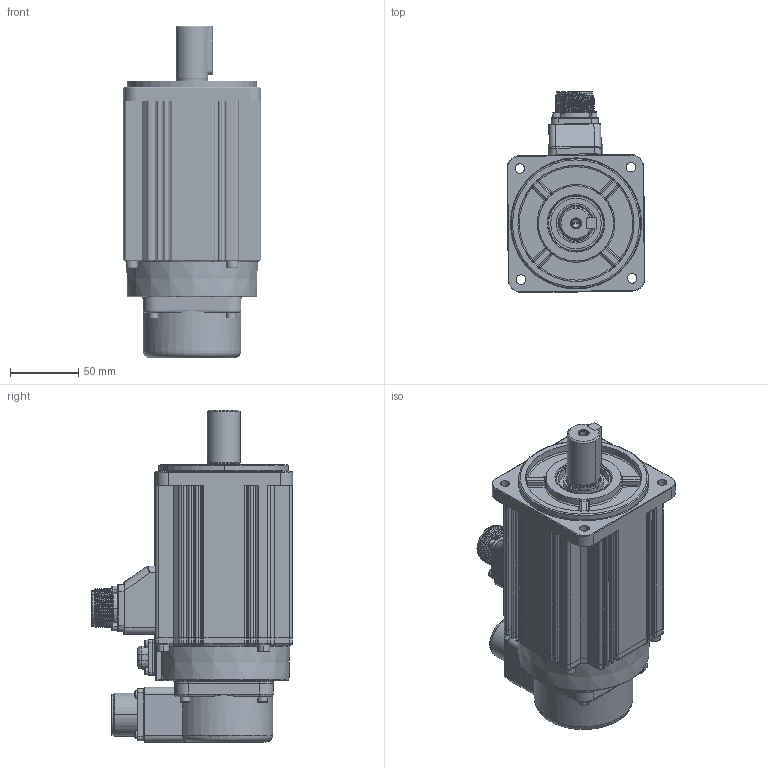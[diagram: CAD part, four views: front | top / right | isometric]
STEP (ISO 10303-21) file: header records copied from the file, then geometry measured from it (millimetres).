
FILE_DESCRIPTION((''),'2;1');
FILE_NAME('IMS20B-10M20C30C-00_ASM','2025-05-20T12:30:47',('admin'),(''),'CREO PARAMETRIC BY PTC INC, 2019080','CREO PARAMETRIC BY PTC INC, 2019080','');
FILE_SCHEMA(('CONFIG_CONTROL_DESIGN'));
Products named in the file (22): 100_JIKE_20C_L64_2_1; 50051-00115_1_1; 18-A6-18FLANGE-CUSTOM-3D_1_1; ISO4762-M3X30-8_8_1_1; 100_DZZJ_20C_ASM_2_ASM_1_ASM; 100_20C_ZHOU_BZ_1_1; 100_HDG_BZ_1_1; 100_ZZZJ_20C_BZ_ASM_1_ASM_1_ASM; 100_FHZ_1_1; CMS3102A20-29PE9-A-3D_1_1; ISO7045-M3X16-4_8_1_1; ISO4762-M4X16-8_8_1_1; 100_FHZ_ASM_1_ASM_1_ASM; BAOZHA_MIFENGDIAN_1_1; BAOZHA_CHUXIANHE_1_1; M3X8-0001_1_1; ISO4762-M5X16-8_8_1_1; 13000_1_1; IMS20B-10M20C30C-BZ_ASM_2_ASM_1_ASM; IMS20B-10M20C30C-00_ASM_1_ASM; C; IMS20B-10M20C30C-00_ASM
Assembly tree (36 placements, depth 5):
  IMS20B-10M20C30C-00_ASM
    IMS20B-10M20C30C-00_ASM_1_ASM
      IMS20B-10M20C30C-BZ_ASM_2_ASM_1_ASM
        100_DZZJ_20C_ASM_2_ASM_1_ASM
          100_JIKE_20C_L64_2_1
          50051-00115_1_1
          18-A6-18FLANGE-CUSTOM-3D_1_1
          ISO4762-M3X30-8_8_1_1  x4
        100_ZZZJ_20C_BZ_ASM_1_ASM_1_ASM
          100_20C_ZHOU_BZ_1_1
          100_HDG_BZ_1_1
        100_FHZ_ASM_1_ASM_1_ASM
          100_FHZ_1_1
          CMS3102A20-29PE9-A-3D_1_1
          ISO7045-M3X16-4_8_1_1  x4
          ISO4762-M4X16-8_8_1_1  x4
        BAOZHA_MIFENGDIAN_1_1
        BAOZHA_CHUXIANHE_1_1
        M3X8-0001_1_1  x4
        ISO4762-M5X16-8_8_1_1  x4
        13000_1_1
    C
Bounding box: 100.95 x 147.22 x 243 mm (x, y, z)
Volume: 1636277.5 mm3; surface area: 209732.6 mm2
Topology: 31 solids, 76 shells, 4667 faces, 12693 edges, 8302 vertices
Faces by surface type: plane 2143, cylinder 1125, extrusion 812, torus 219, cone 154, bspline 135, sphere 79
Entity records: 153045 total; most frequent: CARTESIAN_POINT 48002, ORIENTED_EDGE 22854, DIRECTION 19339, EDGE_CURVE 11487, VERTEX_POINT 7585, VECTOR 7511, LINE 6699, AXIS2_PLACEMENT_3D 5914
